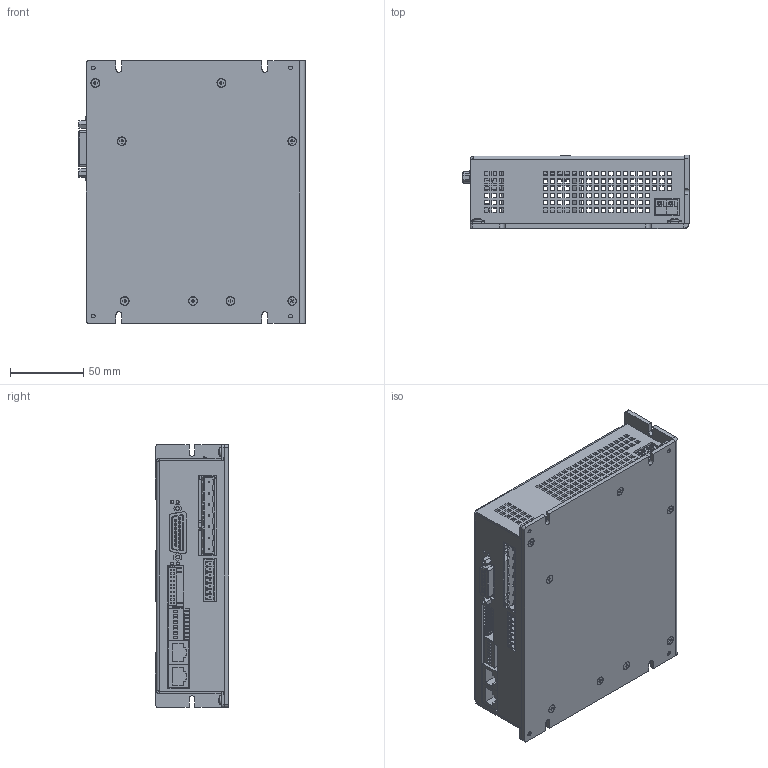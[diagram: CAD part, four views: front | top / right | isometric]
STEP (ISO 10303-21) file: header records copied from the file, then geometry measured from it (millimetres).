
FILE_DESCRIPTION (( 'STEP AP203' ), '1' );
FILE_NAME ('Antriebsregler IMD40 - ArtNr 314040.STEP', '2013-02-25T11:08:59', ( 'test' ), ( 'Microsoft' ), 'SwSTEP 2.0', 'SolidWorks 2012', '' );
FILE_SCHEMA (( 'CONFIG_CONTROL_DESIGN' ));
Length unit declared in the file: millimetre
Products named in the file (1): Antriebsregler IMD40 - ArtNr 314040
Bounding box: 154.86 x 50 x 180 mm (x, y, z)
Volume: 212006.3 mm3; surface area: 204118 mm2
Topology: 22 solids, 24 shells, 4499 faces, 11913 edges, 7674 vertices
Faces by surface type: plane 4184, cylinder 191, bspline 53, cone 49, torus 14, sphere 8
Full cylindrical faces by diameter (mm): 1 x6, 1.25 x32, 1.5 x2, 1.75 x15, 2 x8, 2.5 x10, 2.54 x2, 3 x17, 3.048 x2, 3.2 x4, 3.5 x15, 4 x1, 6 x4, 6.75 x1, 6.858 x1
Entity records: 139441 total; most frequent: CARTESIAN_POINT 26743, ORIENTED_EDGE 23372, DIRECTION 20962, EDGE_CURVE 11686, LINE 11088, VECTOR 11088, VERTEX_POINT 7630, EDGE_LOOP 6106
